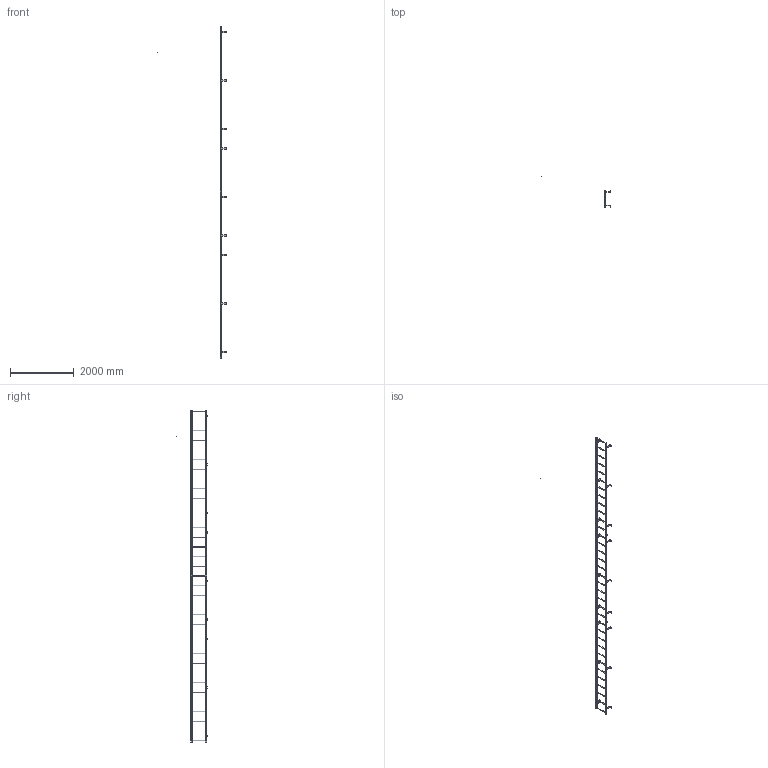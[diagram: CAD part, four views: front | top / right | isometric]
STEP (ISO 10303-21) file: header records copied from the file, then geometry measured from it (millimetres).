
FILE_DESCRIPTION(/* description */ (''),/* implementation_level */ '2;1');
FILE_NAME(/* name */ 'P:\MIKEL & KAREN\D0570349 F35S SIMPLIFIED PART.stp',/* time_stamp */ '2018-07-03T08:34:07-04:00',/* author */ ('stephanie'),/* organization */ (''),/* preprocessor_version */ 'ST-DEVELOPER v16.1',/* originating_system */ 'Autodesk Inventor 2016',/* authorisation */ '');
FILE_SCHEMA (('AUTOMOTIVE_DESIGN { 1 0 10303 214 3 1 1 }'));
Length unit declared in the file: centimetre
Products named in the file (1): D0570349 F35S SIMPLIFIED PART
Bounding box: 2186.58 x 964.1 x 10439.4 mm (x, y, z)
Volume: 18191824.3 mm3; surface area: 5463816.5 mm2
Topology: 38 solids, 38 shells, 528 faces, 1412 edges, 944 vertices
Faces by surface type: plane 310, cylinder 218
Full cylindrical faces by diameter (mm): 0.254 x1, 14.287 x22, 19.05 x35, 22.225 x70
Entity records: 16050 total; most frequent: DIRECTION 2722, CARTESIAN_POINT 2573, ORIENTED_EDGE 2384, EDGE_CURVE 1192, AXIS2_PLACEMENT_3D 1001, VERTEX_POINT 852, EDGE_LOOP 840, LINE 720
